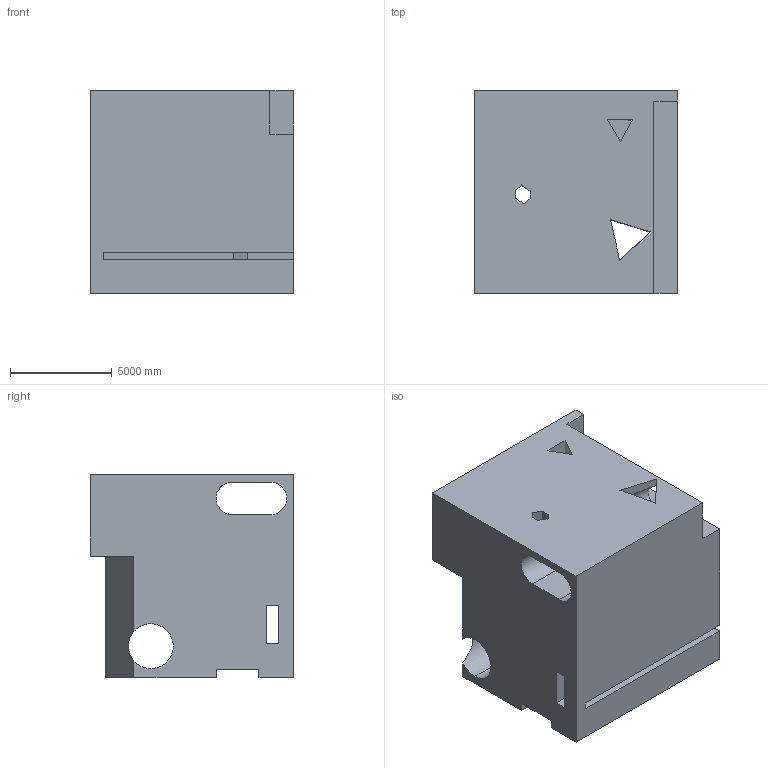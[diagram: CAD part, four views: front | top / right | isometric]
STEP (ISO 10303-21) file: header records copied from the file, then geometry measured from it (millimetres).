
FILE_DESCRIPTION (( 'STEP AP203' ), '1' );
FILE_NAME ('93.STEP', '2022-09-01T12:08:22', ( 'user' ), ( '' ), 'SwSTEP 2.0', 'SolidWorks 2021', '' );
FILE_SCHEMA (( 'CONFIG_CONTROL_DESIGN' ));
Length unit declared in the file: centimetre
Products named in the file (1): 93
Bounding box: 10000 x 10000 x 10000 mm (x, y, z)
Volume: 758465898872 mm3; surface area: 869596494 mm2
Topology: 1 solids, 1 shells, 51 faces, 174 edges, 116 vertices
Faces by surface type: plane 47, cylinder 4
Entity records: 1967 total; most frequent: CARTESIAN_POINT 366, ORIENTED_EDGE 348, DIRECTION 280, EDGE_CURVE 174, VECTOR 156, LINE 156, VERTEX_POINT 116, AXIS2_PLACEMENT_3D 62
